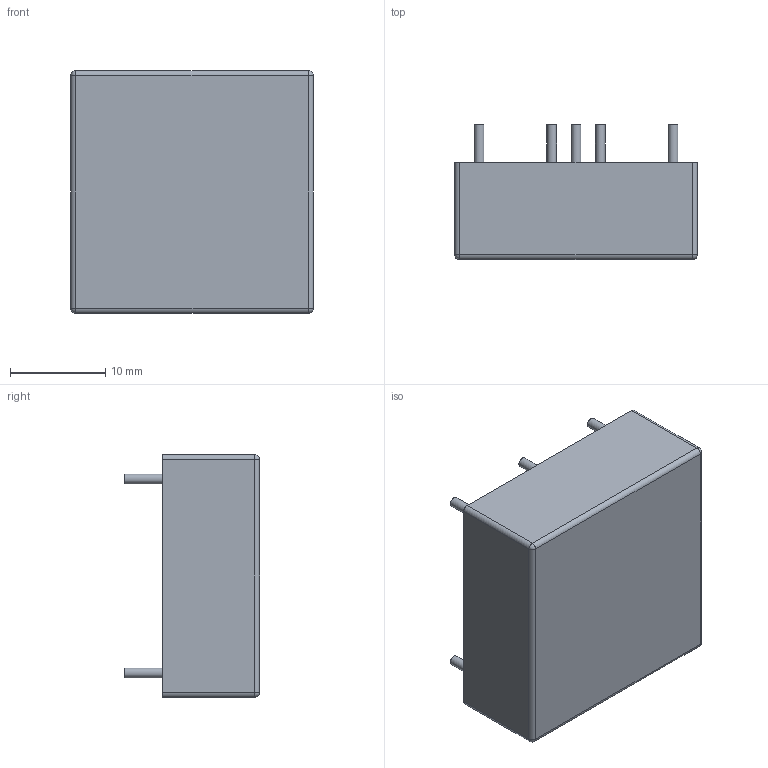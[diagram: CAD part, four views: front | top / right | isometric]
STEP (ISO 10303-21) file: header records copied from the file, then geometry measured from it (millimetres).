
FILE_DESCRIPTION(/* description */ (''),/* implementation_level */ '2;1');
FILE_NAME(/* name */ '',/* time_stamp */ '2022-03-21T10:52:56+01:00',/* author */ (''),/* organization */ (''),/* preprocessor_version */ 'ST-DEVELOPER v18.1',/* originating_system */ '',/* authorisation */ '');
FILE_SCHEMA (('AUTOMOTIVE_DESIGN { 1 0 10303 214 3 1 1 }'));
Length unit declared in the file: millimetre
Products named in the file (1): JETDi30-C2_case_v1_pins
Bounding box: 25.4 x 14.16 x 25.4 mm (x, y, z)
Volume: 6271.6 mm3; surface area: 2426.2 mm2
Topology: 1 solids, 1 shells, 39 faces, 78 edges, 48 vertices
Faces by surface type: cylinder 18, plane 17, sphere 4
Full cylindrical faces by diameter (mm): 1.016 x6
Entity records: 1053 total; most frequent: DIRECTION 194, CARTESIAN_POINT 166, ORIENTED_EDGE 156, EDGE_CURVE 78, AXIS2_PLACEMENT_3D 76, VERTEX_POINT 48, EDGE_LOOP 46, LINE 42
